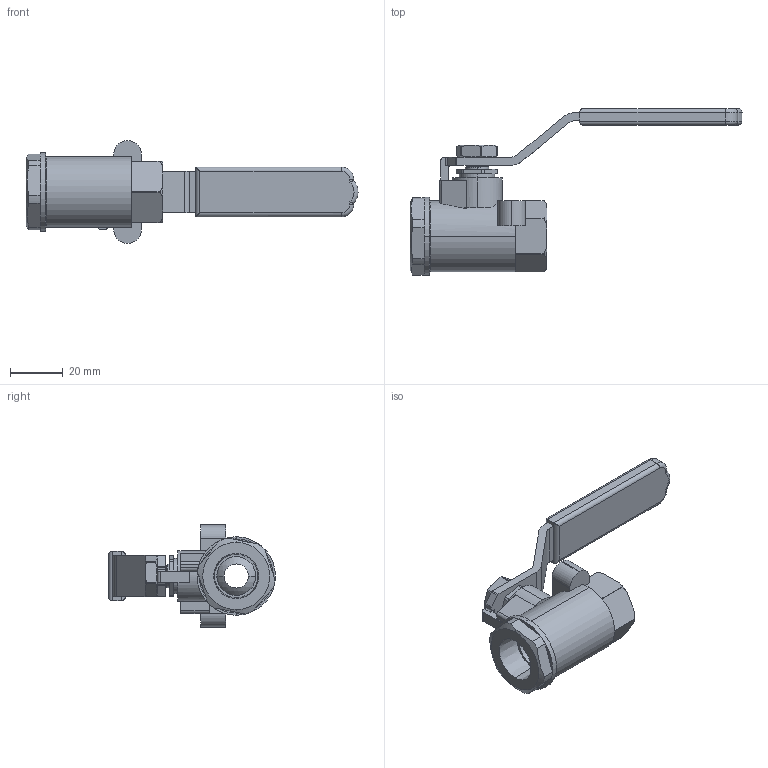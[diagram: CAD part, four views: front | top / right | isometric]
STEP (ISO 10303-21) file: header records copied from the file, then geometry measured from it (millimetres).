
FILE_DESCRIPTION (( 'STEP AP203' ), '1' );
FILE_NAME ('shm-3.STEP', '2019-10-31T20:55:53', ( '' ), ( '' ), 'SwSTEP 2.0', 'SolidWorks 2017', '' );
FILE_SCHEMA (( 'CONFIG_CONTROL_DESIGN' ));
Length unit declared in the file: inch
Products named in the file (2): shm-3
Bounding box: 125.78 x 63.25 x 38.86 mm (x, y, z)
Volume: 39058.8 mm3; surface area: 18598.5 mm2
Topology: 3 solids, 4 shells, 280 faces, 744 edges, 479 vertices
Faces by surface type: plane 109, cylinder 96, bspline 34, cone 31, torus 6, sphere 4
Entity records: 18402 total; most frequent: CARTESIAN_POINT 11661, ORIENTED_EDGE 1480, DIRECTION 1288, EDGE_CURVE 740, AXIS2_PLACEMENT_3D 481, VERTEX_POINT 479, LINE 326, VECTOR 326
